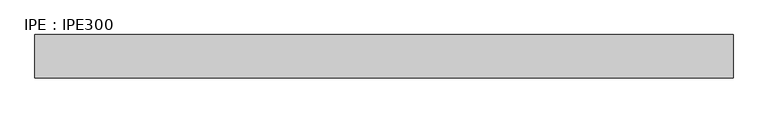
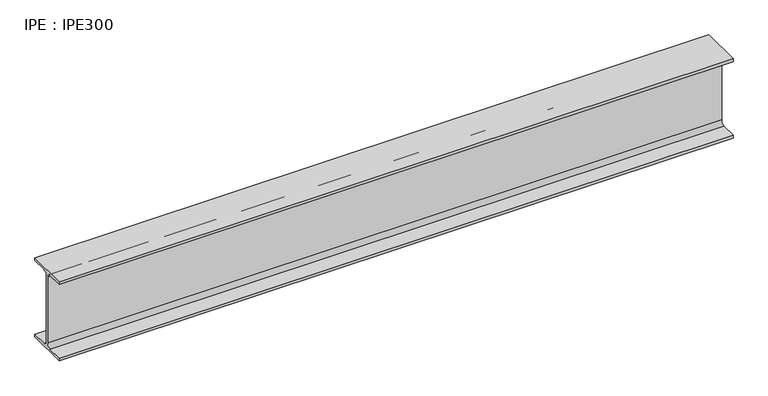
"""IFC4 building model written with IfcOpenShell, lengths in millimetres: beam geometry, IPE : IPE300."""

import ifcopenshell
import ifcopenshell.guid

model = None  # the IFC model being written
_history = None  # IfcOwnerHistory: only IFC2X3 demands one
_inside = {}  # id of a spatial element -> (the spatial element, [elements in it])
_under = {}  # id of a project, library or spatial element -> (it, [spatial elements below it])
_declared = {}  # id of a project -> (the project, [libraries it declares])
_typed = {}  # id of a type object -> (the type object, [elements of that type])
_made_of = {}  # id of a material, layer set ... -> (it, [elements and type objects made of it])


def new_model(schema):
    """Start an empty IFC model of exactly this schema.

    Asked for "IFC4X3", IfcOpenShell would pick the latest addendum, in which some entities
    have other attributes; the version numbers below select the first issue.
    IFC2X3 requires an IfcOwnerHistory on every rooted entity: one is made here for all.
    """
    global model, _history
    if schema == "IFC4X3":
        model = ifcopenshell.file(schema_version=(4, 3, 0, 0))
    else:
        model = ifcopenshell.file(schema=schema)
    _inside.clear()
    _under.clear()
    _declared.clear()
    _typed.clear()
    _made_of.clear()
    _history = None
    if model.schema == "IFC2X3":
        org = make("IfcOrganization", Name="unknown")
        user = make(
            "IfcPersonAndOrganization",
            ThePerson=make("IfcPerson", FamilyName="unknown"),
            TheOrganization=org,
        )
        app = make(
            "IfcApplication",
            ApplicationDeveloper=org,
            Version="unknown",
            ApplicationFullName="unknown",
            ApplicationIdentifier="unknown",
        )
        _history = make(
            "IfcOwnerHistory",
            OwningUser=user,
            OwningApplication=app,
            ChangeAction="ADDED",
            CreationDate=0,
        )
    return model


def make(cls, **values):
    """One entity of the class cls with the attributes given. An attribute that is None is left unset."""
    return model.create_entity(
        cls, **{name: value for name, value in values.items() if value is not None}
    )


def rooted(cls, **values):
    """An entity with a GlobalId (a new one), such as an element, a storey or a relation."""
    return make(cls, GlobalId=ifcopenshell.guid.new(), OwnerHistory=_history, **values)


def si_unit(unit_type, name, prefix=None):
    """IfcSIUnit, for example si_unit("LENGTHUNIT", "METRE", prefix="MILLI")."""
    return make("IfcSIUnit", UnitType=unit_type, Prefix=prefix, Name=name)


def assignment(units):
    """IfcUnitAssignment: the units of a project."""
    return None if units is None else make("IfcUnitAssignment", Units=units)


def point(xyz):
    """IfcCartesianPoint."""
    return None if xyz is None else make("IfcCartesianPoint", Coordinates=xyz)


def direction(xyz):
    """IfcDirection."""
    return None if xyz is None else make("IfcDirection", DirectionRatios=xyz)


def frame(location, z_axis=None, x_axis=None):
    """IfcAxis2Placement3D, a coordinate frame: its origin and axes. An axis left out is left unset."""
    return make(
        "IfcAxis2Placement3D",
        Location=point(location),
        Axis=direction(z_axis),
        RefDirection=direction(x_axis),
    )


def frame_2d(location, x_axis=None):
    """IfcAxis2Placement2D, a coordinate frame in the plane: its origin and x axis."""
    return make(
        "IfcAxis2Placement2D", Location=point(location), RefDirection=direction(x_axis)
    )


def origin():
    """The frame at (0, 0, 0) with its axes left unset."""
    return frame((0.0, 0.0, 0.0))


def place(relative_to, where):
    """IfcLocalPlacement: puts the frame where relative to a parent placement (None: the world)."""
    return make(
        "IfcLocalPlacement", PlacementRelTo=relative_to, RelativePlacement=where
    )


def context(
    kind, dimensions, precision=None, world=None, true_north=None, identifier=None
):
    """IfcGeometricRepresentationContext, for example the 3D "Model" context."""
    return make(
        "IfcGeometricRepresentationContext",
        ContextIdentifier=identifier,
        ContextType=kind,
        CoordinateSpaceDimension=dimensions,
        Precision=precision,
        WorldCoordinateSystem=world,
        TrueNorth=true_north,
    )


def project(units=None, contexts=None):
    """IfcProject with its units and contexts."""
    return rooted(
        "IfcProject",
        Name="project",
        RepresentationContexts=contexts,
        UnitsInContext=assignment(units),
    )


def spatial(cls, under=None, at=None, **own):
    """A site, building, storey or space (cls), placed at a placement, below another one or the project."""
    s = rooted(cls, ObjectPlacement=at, **own)
    if under is not None:
        _under.setdefault(under.id(), (under, []))[1].append(s)
    return s


def polyline(points):
    """IfcPolyline through the points."""
    return make("IfcPolyline", Points=[point(p) for p in points])


def circle_curve(where, radius):
    """IfcCircle in the frame where."""
    return make("IfcCircle", Position=where, Radius=radius)


def trimmed(basis, trim1, trim2, sense, master):
    """IfcTrimmedCurve: the piece of a basis curve between two trims."""
    return make(
        "IfcTrimmedCurve",
        BasisCurve=basis,
        Trim1=trim1,
        Trim2=trim2,
        SenseAgreement=sense,
        MasterRepresentation=master,
    )


def segment(curve, same_sense, transition):
    """IfcCompositeCurveSegment."""
    return make(
        "IfcCompositeCurveSegment",
        Transition=transition,
        SameSense=same_sense,
        ParentCurve=curve,
    )


def composite_curve(segments, self_intersect=None):
    """IfcCompositeCurve: segments joined end to end."""
    return make("IfcCompositeCurve", Segments=segments, SelfIntersect=self_intersect)


def outline(outer, holes=None, kind="AREA"):
    """IfcArbitraryClosedProfileDef: a profile drawn as a closed curve; with holes, ...WithVoids."""
    if holes is None:
        return make("IfcArbitraryClosedProfileDef", ProfileType=kind, OuterCurve=outer)
    return make(
        "IfcArbitraryProfileDefWithVoids",
        ProfileType=kind,
        OuterCurve=outer,
        InnerCurves=holes,
    )


def extrude(swept, where, along, depth):
    """IfcExtrudedAreaSolid: the profile swept, set in the frame where, extruded along a direction by depth."""
    return make(
        "IfcExtrudedAreaSolid",
        SweptArea=swept,
        Position=where,
        ExtrudedDirection=direction(along),
        Depth=depth,
    )


def shape(context_of_items, identifier, shape_type, items):
    """IfcShapeRepresentation: the items that make up one representation, for example the "Body"."""
    return make(
        "IfcShapeRepresentation",
        ContextOfItems=context_of_items,
        RepresentationIdentifier=identifier,
        RepresentationType=shape_type,
        Items=items,
    )


def source(mapping_origin, context_of_items, identifier, shape_type, items):
    """IfcRepresentationMap: a shape defined once, which mapped items show again and again."""
    return make(
        "IfcRepresentationMap",
        MappingOrigin=mapping_origin,
        MappedRepresentation=shape(context_of_items, identifier, shape_type, items),
    )


def transform(
    local_origin,
    x_axis=None,
    y_axis=None,
    z_axis=None,
    scale=None,
    scale2=None,
    scale3=None,
    uniform=True,
):
    """IfcCartesianTransformationOperator3D, or its non-uniform kind. x_axis, y_axis, z_axis: its Axis1, 2, 3."""
    if uniform:
        return make(
            "IfcCartesianTransformationOperator3D",
            Axis1=direction(x_axis),
            Axis2=direction(y_axis),
            LocalOrigin=point(local_origin),
            Scale=scale,
            Axis3=direction(z_axis),
        )
    return make(
        "IfcCartesianTransformationOperator3DnonUniform",
        Axis1=direction(x_axis),
        Axis2=direction(y_axis),
        LocalOrigin=point(local_origin),
        Scale=scale,
        Axis3=direction(z_axis),
        Scale2=scale2,
        Scale3=scale3,
    )


def mapped(mapping_source, mapping_target):
    """IfcMappedItem: shows the shape of a source again, moved by a transform."""
    return make(
        "IfcMappedItem", MappingSource=mapping_source, MappingTarget=mapping_target
    )


def made_of(thing, what):
    """Note that an element or type object is made of a material, layer set ...; save() writes the relation."""
    if what is not None:
        _made_of.setdefault(what.id(), (what, []))[1].append(thing)
    return thing


def element(
    cls,
    number,
    at=None,
    inside=None,
    cuts=None,
    type_object=None,
    material=None,
    context=None,
    identifier="Body",
    shape_type=None,
    held_by="IfcProductDefinitionShape",
    body=None,
    shapes=None,
    **own,
):
    """One element of the class cls, such as IfcWall. Its Tag is "e" and its number.

    at: its placement. inside: the storey or other place that contains it. cuts: it is an
    opening in that element (IfcRelVoidsElement). A single representation is given by context,
    identifier, shape_type and body (its items); several are given by shapes. held_by: the class
    of the entity that holds the representations. save() writes the other relations.
    """
    e = rooted(cls, Tag="e%d" % number, ObjectPlacement=at, **own)
    if body is not None:
        shapes = [shape(context, identifier, shape_type, body)]
    if shapes is not None:
        e.Representation = make(held_by, Representations=shapes)
    if inside is not None:
        _inside.setdefault(inside.id(), (inside, []))[1].append(e)
    if cuts is not None:
        rooted(
            "IfcRelVoidsElement", RelatingBuildingElement=cuts, RelatedOpeningElement=e
        )
    if type_object is not None:
        _typed.setdefault(type_object.id(), (type_object, []))[1].append(e)
    return made_of(e, material)


def aggregate(whole, parts):
    """IfcRelAggregates: a whole, such as a stair, and the parts it consists of."""
    return rooted("IfcRelAggregates", RelatingObject=whole, RelatedObjects=parts)


def save(model, path):
    """Write the relations noted so far, then the file.

    IfcRelAggregates (storeys below a building ...), IfcRelContainedInSpatialStructure (elements
    in a storey), IfcRelDefinesByType, IfcRelAssociatesMaterial and IfcRelDeclares: one each for
    every whole, place, type object, material and project.
    """
    for whole, parts in _under.values():
        aggregate(whole, parts)
    for where, things in _inside.values():
        rooted(
            "IfcRelContainedInSpatialStructure",
            RelatedElements=things,
            RelatingStructure=where,
        )
    for kind, things in _typed.values():
        rooted("IfcRelDefinesByType", RelatedObjects=things, RelatingType=kind)
    for what, things in _made_of.values():
        rooted("IfcRelAssociatesMaterial", RelatedObjects=things, RelatingMaterial=what)
    for by, libraries in _declared.values():
        rooted("IfcRelDeclares", RelatingContext=by, RelatedDefinitions=libraries)
    model.write(path)


def ipe_ipe300_eefa3f7d(model_context):
    return source(origin(), model_context, "Body", "SweptSolid", [
        extrude(outline(composite_curve([segment(polyline([(75.0, -139.3), (75.0, -150.0), (-75.0, -150.0), (-75.0, -139.3), (-18.55, -139.3)]), True, "CONTINUOUS"), segment(trimmed(circle_curve(frame_2d((-18.55, -124.3)), 15.0), [point((-18.55, -139.3))], [point((-3.55, -124.3))], True, "CARTESIAN"), True, "CONTINUOUS"), segment(polyline([(-3.55, -124.3), (-3.55, 124.3)]), True, "CONTINUOUS"), segment(trimmed(circle_curve(frame_2d((-18.55, 124.3)), 15.0), [point((-3.55, 124.3))], [point((-18.55, 139.3))], True, "CARTESIAN"), True, "CONTINUOUS"), segment(polyline([(-18.55, 139.3), (-75.0, 139.3), (-75.0, 150.0), (75.0, 150.0), (75.0, 139.3), (18.55, 139.3)]), True, "CONTINUOUS"), segment(trimmed(circle_curve(frame_2d((18.55, 124.3)), 15.0), [point((18.55, 139.3))], [point((3.55, 124.3))], True, "CARTESIAN"), True, "CONTINUOUS"), segment(polyline([(3.55, 124.3), (3.55, -124.3)]), True, "CONTINUOUS"), segment(trimmed(circle_curve(frame_2d((18.55, -124.3)), 15.0), [point((3.55, -124.3))], [point((18.55, -139.3))], True, "CARTESIAN"), True, "CONTINUOUS"), segment(polyline([(18.55, -139.3), (75.0, -139.3)]), True, "CONTINUOUS")], self_intersect=False)), frame((-1245.0, 0.0, 0.0), z_axis=(1.0, 0.0, 0.0), x_axis=(0.0, 1.0, 0.0)), (0.0, 0.0, 1.0), 2413.3),
    ])


if __name__ == "__main__":
    model = new_model("IFC4")
    model_context = context("Model", 3, world=origin())
    ifc_project = project(units=[si_unit("LENGTHUNIT", "METRE", prefix="MILLI")], contexts=[model_context])
    site = spatial("IfcSite", under=ifc_project)
    building = spatial("IfcBuilding", under=site)
    placement = place(None, origin())
    ipe_ipe300_shape = ipe_ipe300_eefa3f7d(model_context)
    element("IfcBeam", 1, ObjectType="IPE : IPE300", at=placement, inside=building, context=model_context, shape_type="MappedRepresentation", body=[
        mapped(ipe_ipe300_shape, transform((0.0, 0.0, 0.0), x_axis=(1.0, 0.0, 0.0), y_axis=(0.0, 1.0, 0.0), z_axis=(0.0, 0.0, 1.0))),
    ])
    save(model, "model.ifc")
